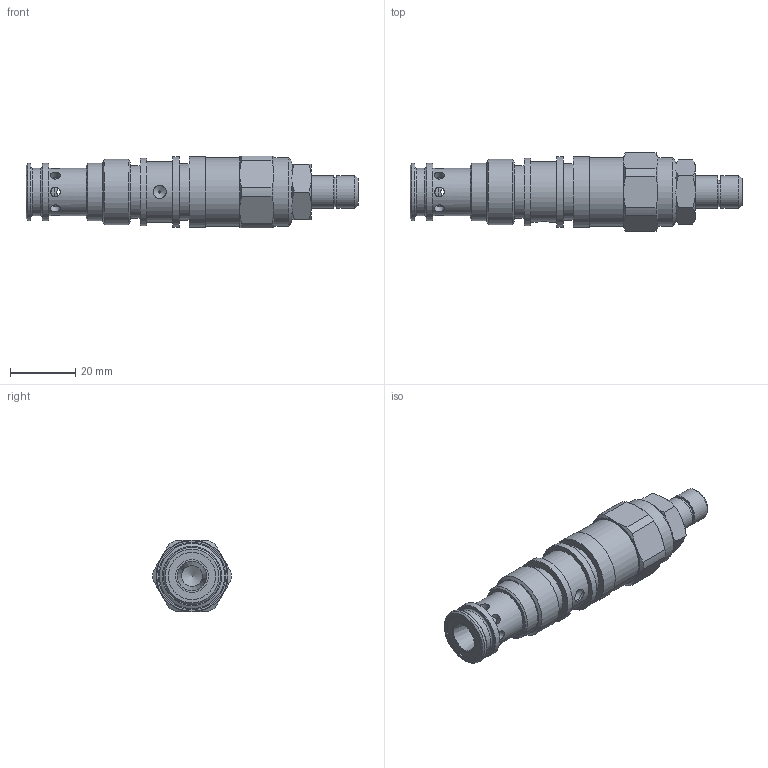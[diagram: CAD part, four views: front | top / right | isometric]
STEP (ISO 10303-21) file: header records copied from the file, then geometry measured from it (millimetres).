
FILE_DESCRIPTION( ( 'STEP AP214' ), '1' );
FILE_NAME( 'p:/temp/worker_54/temp/exporttempdir_4304_421_9wWlf/format_0/PCK06-PV_10N.stp', '2021-02-04T12:10:15', ( 'License CC BY-ND 4.0' ), ( 'CADENAS' ), ' ', 'PARTsolutions', ' ' );
FILE_SCHEMA( ( 'AUTOMOTIVE_DESIGN { 1 0 10303 214 1 1 1 1 }' ) );
Length unit declared in the file: millimetre
Products named in the file (8): PCK06-PV/10N; _0122432; _0112703; _0112704; _UNI 5589 M10 0532040; _0122429; _0112931; _0122447P-01
Assembly tree (7 placements, depth 2):
  PCK06-PV/10N
    _0122432
    _0112703
    _0112704
    _UNI 5589 M10 0532040
    _0122429
    _0112931
    _0122447P-01
Bounding box: 101.79 x 23.98 x 22 mm (x, y, z)
Volume: 20526.7 mm3; surface area: 14904.5 mm2
Topology: 7 solids, 7 shells, 221 faces, 435 edges, 265 vertices
Faces by surface type: cylinder 73, plane 73, cone 47, torus 28
Full cylindrical faces by diameter (mm): 0.7 x1, 3 x8, 3.242 x1, 3.5 x4, 4 x1, 4.8 x1, 4.9 x1, 6.5 x1, 8.376 x1, 8.5 x3, 8.647 x1, 9.4 x5, 9.5 x1, 9.8 x2, 10 x9, 10.2 x1, 11.2 x1, 11.5 x1, 12.5 x3, 12.7 x1, 14.5 x7, 14.6 x1, 16.1 x1, 17.2 x1, 17.5 x3, 18.5 x1, 20 x1, 20.6 x1, 21 x2, 21.6 x2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
Entity records: 8320 total; most frequent: CARTESIAN_POINT 2355, DIRECTION 874, ORIENTED_EDGE 600, AXIS2_PLACEMENT_3D 419, EDGE_LOOP 414, FACE_OUTER_BOUND 316, EDGE_CURVE 300, VERTEX_POINT 256
